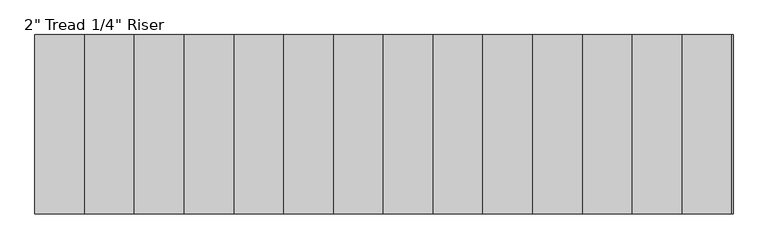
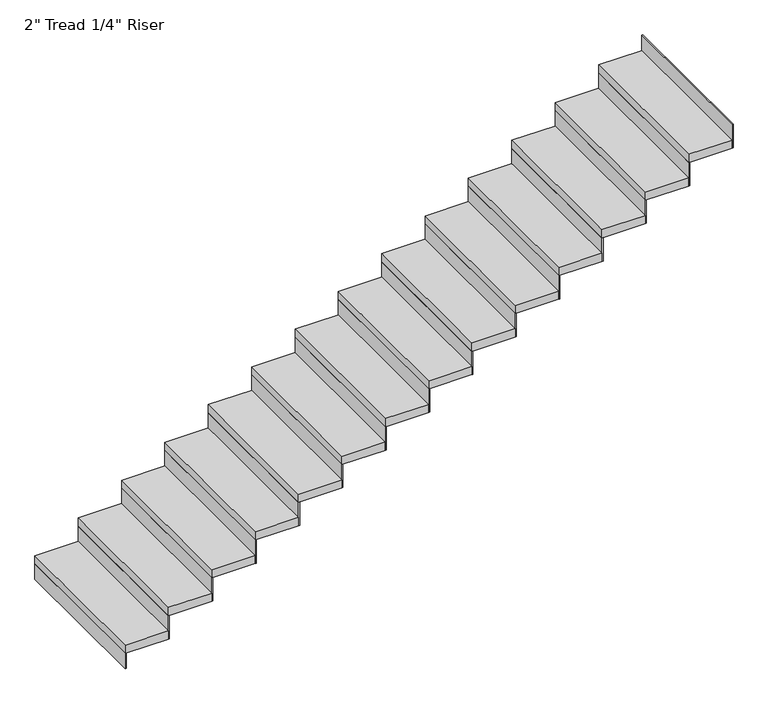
"""IFC4 building model written with IfcOpenShell, lengths in millimetres: stair flight geometry."""

from ifc_helpers import new_model, si_unit, frame, origin, origin_with_axes, place, context, project, spatial, polyline, outline, extrude, source, transform, mapped, element, save


def stair_flight_8ad0e3ce(model_context):
    return source(origin(), model_context, "Body", "SweptSolid", [
        extrude(outline(polyline([(24312.3612561, -12577.0617549), (24306.0112561, -12577.0617549), (24306.0112561, -11662.6617549), (24312.3612561, -11662.6617549), (24312.3612561, -12577.0617549)])), origin_with_axes(), (0.0, 0.0, 1.0), 94.3428571),
        extrude(outline(polyline([(24560.0112561, -11662.6617549), (24560.0112561, -12577.0617549), (24306.0112561, -12577.0617549), (24306.0112561, -11662.6617549), (24560.0112561, -11662.6617549)])), frame((0.0, 0.0, 94.3428571), z_axis=(0.0, 0.0, 1.0), x_axis=(1.0, 0.0, 0.0)), (0.0, 0.0, 1.0), 50.8),
        extrude(outline(polyline([(24566.3612561, -12577.0617549), (24560.0112561, -12577.0617549), (24560.0112561, -11662.6617549), (24566.3612561, -11662.6617549), (24566.3612561, -12577.0617549)])), frame((0.0, 0.0, 94.3428571), z_axis=(0.0, 0.0, 1.0), x_axis=(1.0, 0.0, 0.0)), (0.0, 0.0, 1.0), 145.1428571),
        extrude(outline(polyline([(24814.0112561, -11662.6617549), (24814.0112561, -12577.0617549), (24560.0112561, -12577.0617549), (24560.0112561, -11662.6617549), (24814.0112561, -11662.6617549)])), frame((0.0, 0.0, 239.4857143), z_axis=(0.0, 0.0, 1.0), x_axis=(1.0, 0.0, 0.0)), (0.0, 0.0, 1.0), 50.8),
        extrude(outline(polyline([(24820.3612561, -12577.0617549), (24814.0112561, -12577.0617549), (24814.0112561, -11662.6617549), (24820.3612561, -11662.6617549), (24820.3612561, -12577.0617549)])), frame((0.0, 0.0, 239.4857143), z_axis=(0.0, 0.0, 1.0), x_axis=(1.0, 0.0, 0.0)), (0.0, 0.0, 1.0), 145.1428571),
        extrude(outline(polyline([(25068.0112561, -11662.6617549), (25068.0112561, -12577.0617549), (24814.0112561, -12577.0617549), (24814.0112561, -11662.6617549), (25068.0112561, -11662.6617549)])), frame((0.0, 0.0, 384.6285714), z_axis=(0.0, 0.0, 1.0), x_axis=(1.0, 0.0, 0.0)), (0.0, 0.0, 1.0), 50.8),
        extrude(outline(polyline([(25074.3612561, -12577.0617549), (25068.0112561, -12577.0617549), (25068.0112561, -11662.6617549), (25074.3612561, -11662.6617549), (25074.3612561, -12577.0617549)])), frame((0.0, 0.0, 384.6285714), z_axis=(0.0, 0.0, 1.0), x_axis=(1.0, 0.0, 0.0)), (0.0, 0.0, 1.0), 145.1428571),
        extrude(outline(polyline([(25322.0112561, -11662.6617549), (25322.0112561, -12577.0617549), (25068.0112561, -12577.0617549), (25068.0112561, -11662.6617549), (25322.0112561, -11662.6617549)])), frame((0.0, 0.0, 529.7714286), z_axis=(0.0, 0.0, 1.0), x_axis=(1.0, 0.0, 0.0)), (0.0, 0.0, 1.0), 50.8),
        extrude(outline(polyline([(25328.3612561, -12577.0617549), (25322.0112561, -12577.0617549), (25322.0112561, -11662.6617549), (25328.3612561, -11662.6617549), (25328.3612561, -12577.0617549)])), frame((0.0, 0.0, 529.7714286), z_axis=(0.0, 0.0, 1.0), x_axis=(1.0, 0.0, 0.0)), (0.0, 0.0, 1.0), 145.1428571),
        extrude(outline(polyline([(25576.0112561, -11662.6617549), (25576.0112561, -12577.0617549), (25322.0112561, -12577.0617549), (25322.0112561, -11662.6617549), (25576.0112561, -11662.6617549)])), frame((0.0, 0.0, 674.9142857), z_axis=(0.0, 0.0, 1.0), x_axis=(1.0, 0.0, 0.0)), (0.0, 0.0, 1.0), 50.8),
        extrude(outline(polyline([(25582.3612561, -12577.0617549), (25576.0112561, -12577.0617549), (25576.0112561, -11662.6617549), (25582.3612561, -11662.6617549), (25582.3612561, -12577.0617549)])), frame((0.0, 0.0, 674.9142857), z_axis=(0.0, 0.0, 1.0), x_axis=(1.0, 0.0, 0.0)), (0.0, 0.0, 1.0), 145.1428571),
        extrude(outline(polyline([(25830.0112561, -11662.6617549), (25830.0112561, -12577.0617549), (25576.0112561, -12577.0617549), (25576.0112561, -11662.6617549), (25830.0112561, -11662.6617549)])), frame((0.0, 0.0, 820.0571429), z_axis=(0.0, 0.0, 1.0), x_axis=(1.0, 0.0, 0.0)), (0.0, 0.0, 1.0), 50.8),
        extrude(outline(polyline([(25836.3612561, -12577.0617549), (25830.0112561, -12577.0617549), (25830.0112561, -11662.6617549), (25836.3612561, -11662.6617549), (25836.3612561, -12577.0617549)])), frame((0.0, 0.0, 820.0571429), z_axis=(0.0, 0.0, 1.0), x_axis=(1.0, 0.0, 0.0)), (0.0, 0.0, 1.0), 145.1428571),
        extrude(outline(polyline([(26084.0112561, -11662.6617549), (26084.0112561, -12577.0617549), (25830.0112561, -12577.0617549), (25830.0112561, -11662.6617549), (26084.0112561, -11662.6617549)])), frame((0.0, 0.0, 965.2), z_axis=(0.0, 0.0, 1.0), x_axis=(1.0, 0.0, 0.0)), (0.0, 0.0, 1.0), 50.8),
        extrude(outline(polyline([(26090.3612561, -12577.0617549), (26084.0112561, -12577.0617549), (26084.0112561, -11662.6617549), (26090.3612561, -11662.6617549), (26090.3612561, -12577.0617549)])), frame((0.0, 0.0, 965.2), z_axis=(0.0, 0.0, 1.0), x_axis=(1.0, 0.0, 0.0)), (0.0, 0.0, 1.0), 145.1428571),
        extrude(outline(polyline([(26338.0112561, -11662.6617549), (26338.0112561, -12577.0617549), (26084.0112561, -12577.0617549), (26084.0112561, -11662.6617549), (26338.0112561, -11662.6617549)])), frame((0.0, 0.0, 1110.3428571), z_axis=(0.0, 0.0, 1.0), x_axis=(1.0, 0.0, 0.0)), (0.0, 0.0, 1.0), 50.8),
        extrude(outline(polyline([(26344.3612561, -12577.0617549), (26338.0112561, -12577.0617549), (26338.0112561, -11662.6617549), (26344.3612561, -11662.6617549), (26344.3612561, -12577.0617549)])), frame((0.0, 0.0, 1110.3428571), z_axis=(0.0, 0.0, 1.0), x_axis=(1.0, 0.0, 0.0)), (0.0, 0.0, 1.0), 145.1428571),
        extrude(outline(polyline([(26592.0112561, -11662.6617549), (26592.0112561, -12577.0617549), (26338.0112561, -12577.0617549), (26338.0112561, -11662.6617549), (26592.0112561, -11662.6617549)])), frame((0.0, 0.0, 1255.4857143), z_axis=(0.0, 0.0, 1.0), x_axis=(1.0, 0.0, 0.0)), (0.0, 0.0, 1.0), 50.8),
        extrude(outline(polyline([(26598.3612561, -12577.0617549), (26592.0112561, -12577.0617549), (26592.0112561, -11662.6617549), (26598.3612561, -11662.6617549), (26598.3612561, -12577.0617549)])), frame((0.0, 0.0, 1255.4857143), z_axis=(0.0, 0.0, 1.0), x_axis=(1.0, 0.0, 0.0)), (0.0, 0.0, 1.0), 145.1428571),
        extrude(outline(polyline([(26846.0112561, -11662.6617549), (26846.0112561, -12577.0617549), (26592.0112561, -12577.0617549), (26592.0112561, -11662.6617549), (26846.0112561, -11662.6617549)])), frame((0.0, 0.0, 1400.6285714), z_axis=(0.0, 0.0, 1.0), x_axis=(1.0, 0.0, 0.0)), (0.0, 0.0, 1.0), 50.8),
        extrude(outline(polyline([(26852.3612561, -12577.0617549), (26846.0112561, -12577.0617549), (26846.0112561, -11662.6617549), (26852.3612561, -11662.6617549), (26852.3612561, -12577.0617549)])), frame((0.0, 0.0, 1400.6285714), z_axis=(0.0, 0.0, 1.0), x_axis=(1.0, 0.0, 0.0)), (0.0, 0.0, 1.0), 145.1428571),
        extrude(outline(polyline([(27100.0112561, -11662.6617549), (27100.0112561, -12577.0617549), (26846.0112561, -12577.0617549), (26846.0112561, -11662.6617549), (27100.0112561, -11662.6617549)])), frame((0.0, 0.0, 1545.7714286), z_axis=(0.0, 0.0, 1.0), x_axis=(1.0, 0.0, 0.0)), (0.0, 0.0, 1.0), 50.8),
        extrude(outline(polyline([(27106.3612561, -12577.0617549), (27100.0112561, -12577.0617549), (27100.0112561, -11662.6617549), (27106.3612561, -11662.6617549), (27106.3612561, -12577.0617549)])), frame((0.0, 0.0, 1545.7714286), z_axis=(0.0, 0.0, 1.0), x_axis=(1.0, 0.0, 0.0)), (0.0, 0.0, 1.0), 145.1428571),
        extrude(outline(polyline([(27354.0112561, -11662.6617549), (27354.0112561, -12577.0617549), (27100.0112561, -12577.0617549), (27100.0112561, -11662.6617549), (27354.0112561, -11662.6617549)])), frame((0.0, 0.0, 1690.9142857), z_axis=(0.0, 0.0, 1.0), x_axis=(1.0, 0.0, 0.0)), (0.0, 0.0, 1.0), 50.8),
        extrude(outline(polyline([(27360.3612561, -12577.0617549), (27354.0112561, -12577.0617549), (27354.0112561, -11662.6617549), (27360.3612561, -11662.6617549), (27360.3612561, -12577.0617549)])), frame((0.0, 0.0, 1690.9142857), z_axis=(0.0, 0.0, 1.0), x_axis=(1.0, 0.0, 0.0)), (0.0, 0.0, 1.0), 145.1428571),
        extrude(outline(polyline([(27608.0112561, -11662.6617549), (27608.0112561, -12577.0617549), (27354.0112561, -12577.0617549), (27354.0112561, -11662.6617549), (27608.0112561, -11662.6617549)])), frame((0.0, 0.0, 1836.0571429), z_axis=(0.0, 0.0, 1.0), x_axis=(1.0, 0.0, 0.0)), (0.0, 0.0, 1.0), 50.8),
        extrude(outline(polyline([(27614.3612561, -12577.0617549), (27608.0112561, -12577.0617549), (27608.0112561, -11662.6617549), (27614.3612561, -11662.6617549), (27614.3612561, -12577.0617549)])), frame((0.0, 0.0, 1836.0571429), z_axis=(0.0, 0.0, 1.0), x_axis=(1.0, 0.0, 0.0)), (0.0, 0.0, 1.0), 145.1428571),
        extrude(outline(polyline([(27868.3612561, -12577.0617549), (27862.0112561, -12577.0617549), (27862.0112561, -11662.6617549), (27868.3612561, -11662.6617549), (27868.3612561, -12577.0617549)])), frame((0.0, 0.0, 1981.2), z_axis=(0.0, 0.0, 1.0), x_axis=(1.0, 0.0, 0.0)), (0.0, 0.0, 1.0), 145.1428571),
        extrude(outline(polyline([(27862.0112561, -11662.6617549), (27862.0112561, -12577.0617549), (27608.0112561, -12577.0617549), (27608.0112561, -11662.6617549), (27862.0112561, -11662.6617549)])), frame((0.0, 0.0, 1981.2), z_axis=(0.0, 0.0, 1.0), x_axis=(1.0, 0.0, 0.0)), (0.0, 0.0, 1.0), 50.8),
    ])


if __name__ == "__main__":
    model = new_model("IFC4")
    model_context = context("Model", 3, world=origin())
    ifc_project = project(units=[si_unit("LENGTHUNIT", "METRE", prefix="MILLI")], contexts=[model_context])
    site = spatial("IfcSite", under=ifc_project)
    building = spatial("IfcBuilding", under=site)
    placement = place(None, origin())
    stair_flight_shape = stair_flight_8ad0e3ce(model_context)
    element("IfcStairFlight", 1, ObjectType="2\" Tread 1/4\" Riser", at=placement, inside=building, context=model_context, shape_type="MappedRepresentation", body=[
        mapped(stair_flight_shape, transform((0.0, 0.0, 0.0), x_axis=(1.0, 0.0, 0.0), y_axis=(0.0, 1.0, 0.0), z_axis=(0.0, 0.0, 1.0))),
    ])
    save(model, "model.ifc")
